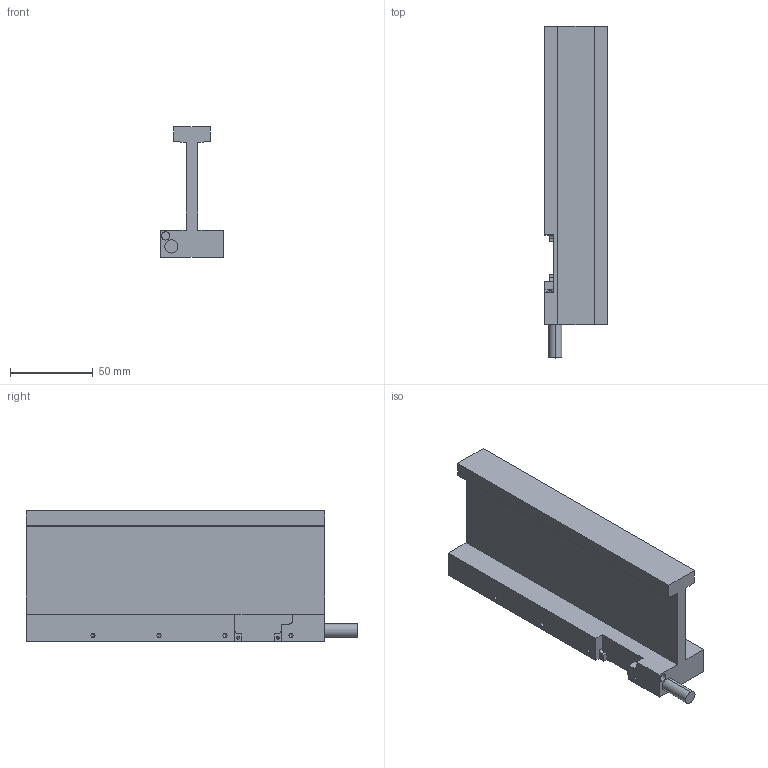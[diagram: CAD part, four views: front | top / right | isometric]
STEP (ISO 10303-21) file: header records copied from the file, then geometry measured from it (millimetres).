
FILE_DESCRIPTION (( 'STEP AP214' ), '1' );
FILE_NAME ('JKA43.STEP', '2025-09-05T08:43:57', ( '' ), ( '' ), 'SwSTEP 2.0', 'SolidWorks 2016', '' );
FILE_SCHEMA (( 'AUTOMOTIVE_DESIGN' ));
Length unit declared in the file: millimetre
Products named in the file (1): JKA43
Bounding box: 38 x 201 x 79 mm (x, y, z)
Volume: 215878.3 mm3; surface area: 52060.7 mm2
Topology: 1 solids, 1 shells, 120 faces, 309 edges, 170 vertices
Faces by surface type: cylinder 50, cone 42, plane 28
Entity records: 3844 total; most frequent: DIRECTION 606, CARTESIAN_POINT 588, ORIENTED_EDGE 534, EDGE_CURVE 267, AXIS2_PLACEMENT_3D 220, VERTEX_POINT 170, LINE 166, VECTOR 166
